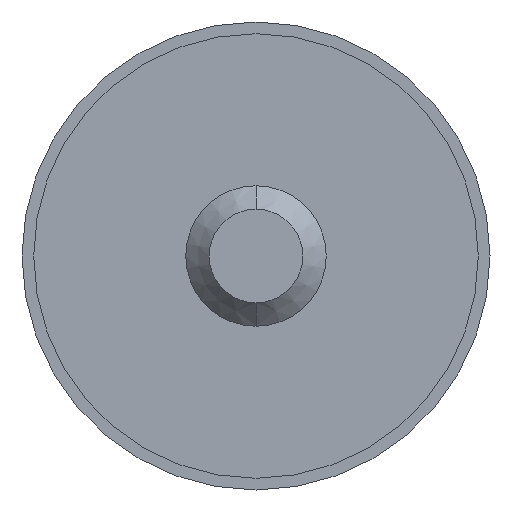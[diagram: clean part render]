
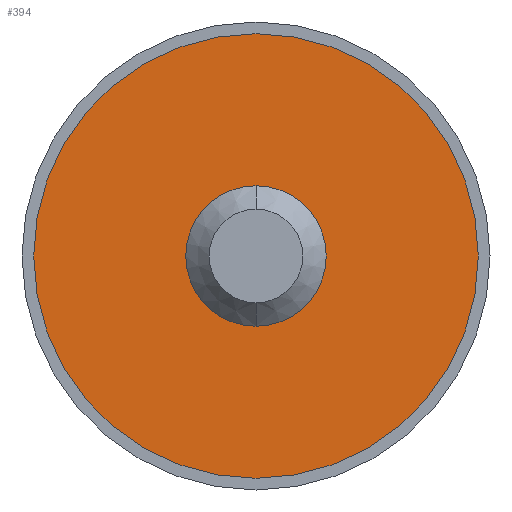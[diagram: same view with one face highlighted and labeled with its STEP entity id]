
A CAD part, front view. The second image highlights one B-rep face of the part: STEP entity #394.
In plain terms, the highlighted planar face has unit normal (0, -1, 0).
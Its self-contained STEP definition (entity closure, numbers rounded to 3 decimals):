
#67 = CARTESIAN_POINT ( 'NONE',  ( 0., -0.5, 0. ) ) ;
#118 = CARTESIAN_POINT ( 'NONE',  ( 0., -0.5, 0. ) ) ;
#394 = ADVANCED_FACE ( 'NONE', ( #2927, #1759 ), #954, .F. ) ;
#422 = CARTESIAN_POINT ( 'NONE',  ( 0., -0.5, 0. ) ) ;
#425 = EDGE_CURVE ( 'NONE', #3000, #1671, #2539, .T. ) ;
#559 = AXIS2_PLACEMENT_3D ( 'NONE', #118, #3744, #2815 ) ;
#654 = DIRECTION ( 'NONE',  ( 0., 0., 1. ) ) ;
#926 = DIRECTION ( 'NONE',  ( 0., 1., 0. ) ) ;
#954 = PLANE ( 'NONE',  #2445 ) ;
#1064 = VERTEX_POINT ( 'NONE', #2417 ) ;
#1169 = DIRECTION ( 'NONE',  ( 0., 0., -1. ) ) ;
#1226 = ORIENTED_EDGE ( 'NONE', *, *, #425, .F. ) ;
#1478 = ORIENTED_EDGE ( 'NONE', *, *, #3003, .F. ) ;
#1567 = CARTESIAN_POINT ( 'NONE',  ( 0., -0.5, -9.5 ) ) ;
#1573 = EDGE_CURVE ( 'NONE', #3762, #1064, #1658, .T. ) ;
#1618 = DIRECTION ( 'NONE',  ( 0., -1., 0. ) ) ;
#1658 = CIRCLE ( 'NONE', #1995, 3. ) ;
#1671 = VERTEX_POINT ( 'NONE', #1567 ) ;
#1759 = FACE_OUTER_BOUND ( 'NONE', #2105, .T. ) ;
#1889 = CARTESIAN_POINT ( 'NONE',  ( 0., -0.5, 3. ) ) ;
#1995 = AXIS2_PLACEMENT_3D ( 'NONE', #3339, #2131, #1169 ) ;
#2105 = EDGE_LOOP ( 'NONE', ( #1226, #1478 ) ) ;
#2131 = DIRECTION ( 'NONE',  ( 0., -1., 0. ) ) ;
#2281 = ORIENTED_EDGE ( 'NONE', *, *, #3084, .F. ) ;
#2351 = AXIS2_PLACEMENT_3D ( 'NONE', #422, #1618, #2500 ) ;
#2417 = CARTESIAN_POINT ( 'NONE',  ( 0., -0.5, -3. ) ) ;
#2445 = AXIS2_PLACEMENT_3D ( 'NONE', #3721, #3083, #3092 ) ;
#2500 = DIRECTION ( 'NONE',  ( 0., 0., -1. ) ) ;
#2539 = CIRCLE ( 'NONE', #559, 9.5 ) ;
#2551 = AXIS2_PLACEMENT_3D ( 'NONE', #67, #926, #654 ) ;
#2566 = CIRCLE ( 'NONE', #2351, 3. ) ;
#2706 = CIRCLE ( 'NONE', #2551, 9.5 ) ;
#2815 = DIRECTION ( 'NONE',  ( 0., 0., 1. ) ) ;
#2927 = FACE_BOUND ( 'NONE', #3567, .T. ) ;
#3000 = VERTEX_POINT ( 'NONE', #3628 ) ;
#3003 = EDGE_CURVE ( 'NONE', #1671, #3000, #2706, .T. ) ;
#3083 = DIRECTION ( 'NONE',  ( 0., 1., 0. ) ) ;
#3084 = EDGE_CURVE ( 'NONE', #1064, #3762, #2566, .T. ) ;
#3092 = DIRECTION ( 'NONE',  ( 0., 0., 1. ) ) ;
#3339 = CARTESIAN_POINT ( 'NONE',  ( 0., -0.5, 0. ) ) ;
#3499 = ORIENTED_EDGE ( 'NONE', *, *, #1573, .F. ) ;
#3567 = EDGE_LOOP ( 'NONE', ( #3499, #2281 ) ) ;
#3628 = CARTESIAN_POINT ( 'NONE',  ( 0., -0.5, 9.5 ) ) ;
#3721 = CARTESIAN_POINT ( 'NONE',  ( 0., -0.5, 0. ) ) ;
#3744 = DIRECTION ( 'NONE',  ( 0., 1., 0. ) ) ;
#3762 = VERTEX_POINT ( 'NONE', #1889 ) ;
